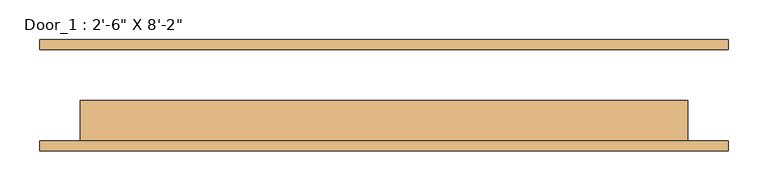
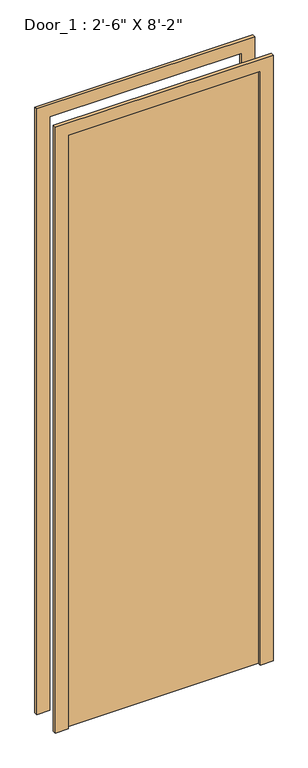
"""IFC4 building model written with IfcOpenShell, lengths in millimetres: door geometry."""

from ifc_helpers import new_model, si_unit, frame, origin, origin_with_axes, place, context, project, spatial, polyline, outline, extrude, source, transform, mapped, element, save


def door_c0065fe1(model_context):
    return source(origin(), model_context, "Body", "SweptSolid", [
        extrude(outline(polyline([(2540.0, -431.8), (0.0, -431.8), (0.0, -381.0), (2489.2, -381.0), (2489.2, 381.0), (0.0, 381.0), (0.0, 431.8), (2540.0, 431.8), (2540.0, -431.8)])), frame((0.0, -69.85, 0.0), z_axis=(0.0, 1.0, 0.0), x_axis=(0.0, 0.0, 1.0)), (0.0, 0.0, 1.0), 12.7),
        extrude(outline(polyline([(2540.0, 431.8), (2540.0, -431.8), (0.0, -431.8), (0.0, -381.0), (2489.2, -381.0), (2489.2, 381.0), (0.0, 381.0), (0.0, 431.8), (2540.0, 431.8)])), frame((0.0, 57.15, 0.0), z_axis=(0.0, 1.0, 0.0), x_axis=(0.0, 0.0, 1.0)), (0.0, 0.0, 1.0), 12.7),
        extrude(outline(polyline([(381.0, -6.35), (381.0, -57.15), (-381.0, -57.15), (-381.0, -6.35), (381.0, -6.35)])), origin_with_axes(), (0.0, 0.0, 1.0), 2489.2),
    ])


if __name__ == "__main__":
    model = new_model("IFC4")
    model_context = context("Model", 3, world=origin())
    ifc_project = project(units=[si_unit("LENGTHUNIT", "METRE", prefix="MILLI")], contexts=[model_context])
    site = spatial("IfcSite", under=ifc_project)
    building = spatial("IfcBuilding", under=site)
    placement = place(None, origin())
    door_shape = door_c0065fe1(model_context)
    element("IfcDoor", 1, ObjectType="Door_1 : 2'-6\" X 8'-2\"", at=placement, inside=building, context=model_context, shape_type="MappedRepresentation", body=[
        mapped(door_shape, transform((0.0, 0.0, 0.0), x_axis=(1.0, 0.0, 0.0), y_axis=(0.0, 1.0, 0.0), z_axis=(0.0, 0.0, 1.0))),
    ])
    save(model, "model.ifc")
